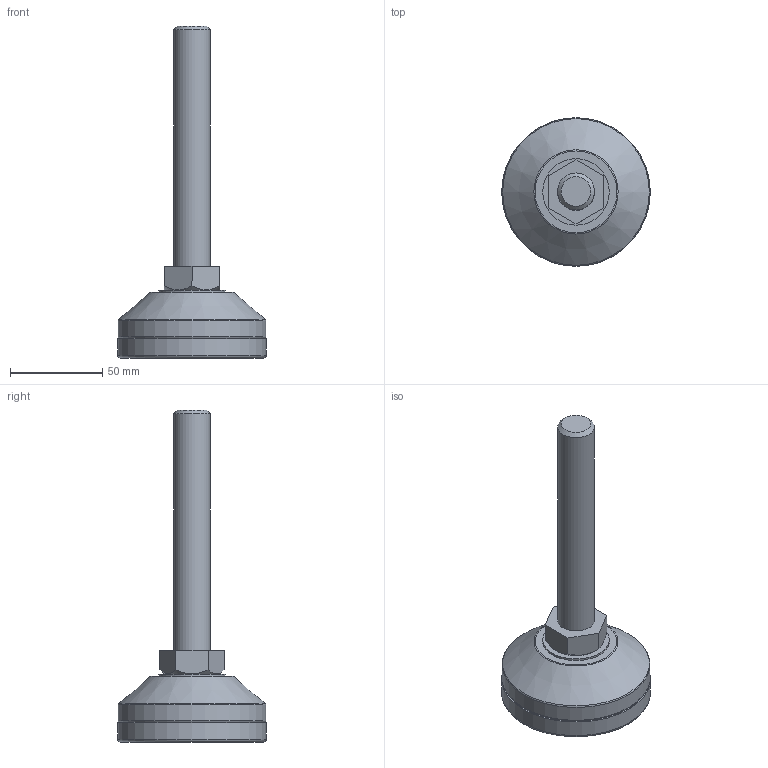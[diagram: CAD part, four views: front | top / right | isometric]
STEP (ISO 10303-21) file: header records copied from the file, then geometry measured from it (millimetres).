
FILE_DESCRIPTION(/* description */ (''),/* implementation_level */ '2;1');
FILE_NAME(/* name */ 'D:\조절자\FR\FR-M20-130L.stp',/* time_stamp */ '2016-03-14T14:37:21+09:00',/* author */ ('GS-DT-1-001'),/* organization */ (''),/* preprocessor_version */ 'ST-DEVELOPER v15.6',/* originating_system */ 'Autodesk Inventor LT ',/* authorisation */ '');
FILE_SCHEMA (('AUTOMOTIVE_DESIGN { 1 0 10303 214 3 1 1 }'));
Length unit declared in the file: millimetre
Products named in the file (1): FR-M20-130L
Bounding box: 80.4 x 80.4 x 179.5 mm (x, y, z)
Volume: 192733.9 mm3; surface area: 46367.3 mm2
Topology: 5 solids, 5 shells, 68 faces, 118 edges, 72 vertices
Faces by surface type: plane 28, torus 15, cylinder 15, cone 10
Full cylindrical faces by diameter (mm): 6.912 x1, 8 x1, 8.2 x1, 8.3 x1, 16 x1, 20 x1, 30 x1, 36 x1, 50 x1, 57 x1, 61 x1, 71 x1, 75 x1, 80 x1, 80.4 x1
Entity records: 1424 total; most frequent: DIRECTION 266, CARTESIAN_POINT 227, ORIENTED_EDGE 152, AXIS2_PLACEMENT_3D 127, EDGE_LOOP 124, EDGE_CURVE 76, VERTEX_POINT 70, FACE_OUTER_BOUND 68
